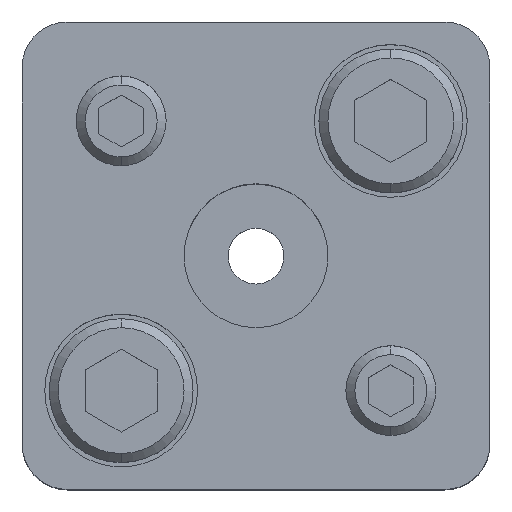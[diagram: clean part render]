
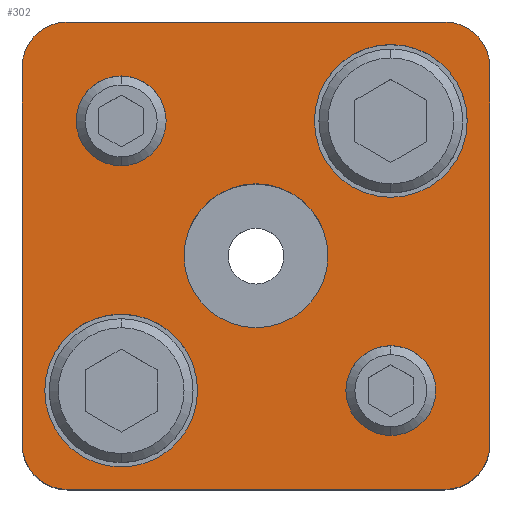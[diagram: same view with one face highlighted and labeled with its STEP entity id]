
A CAD part, top view. The second image highlights one B-rep face of the part: STEP entity #302.
In plain terms, the highlighted planar face has unit normal (0, 0, 1).
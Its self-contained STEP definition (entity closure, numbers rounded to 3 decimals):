
#165=FACE_BOUND('',#685,.T.);
#166=FACE_BOUND('',#686,.T.);
#167=FACE_BOUND('',#687,.T.);
#168=FACE_BOUND('',#688,.T.);
#169=FACE_BOUND('',#689,.T.);
#170=FACE_BOUND('',#690,.T.);
#211=PLANE('',#2792);
#302=ADVANCED_FACE('',(#165,#166,#167,#168,#169,#170),#211,.T.);
#685=EDGE_LOOP('',(#1147,#1148,#1149,#1150,#1151,#1152,#1153,#1154));
#686=EDGE_LOOP('',(#1155,#1156));
#687=EDGE_LOOP('',(#1157,#1158));
#688=EDGE_LOOP('',(#1159,#1160));
#689=EDGE_LOOP('',(#1161,#1162));
#690=EDGE_LOOP('',(#1163,#1164));
#877=CIRCLE('',#2768,8.5);
#879=CIRCLE('',#2771,8.5);
#881=CIRCLE('',#2775,8.5);
#883=CIRCLE('',#2778,8.5);
#885=CIRCLE('',#2782,5.);
#886=CIRCLE('',#2783,5.);
#887=CIRCLE('',#2784,5.);
#888=CIRCLE('',#2785,5.);
#889=CIRCLE('',#2786,5.);
#890=CIRCLE('',#2787,5.);
#891=CIRCLE('',#2788,5.);
#892=CIRCLE('',#2789,5.);
#893=CIRCLE('',#2790,8.);
#894=CIRCLE('',#2791,8.);
#1147=ORIENTED_EDGE('',*,*,#2031,.T.);
#1148=ORIENTED_EDGE('',*,*,#2032,.T.);
#1149=ORIENTED_EDGE('',*,*,#2033,.T.);
#1150=ORIENTED_EDGE('',*,*,#2034,.T.);
#1151=ORIENTED_EDGE('',*,*,#2035,.T.);
#1152=ORIENTED_EDGE('',*,*,#2036,.T.);
#1153=ORIENTED_EDGE('',*,*,#2037,.T.);
#1154=ORIENTED_EDGE('',*,*,#2038,.T.);
#1155=ORIENTED_EDGE('',*,*,#2039,.F.);
#1156=ORIENTED_EDGE('',*,*,#2040,.F.);
#1157=ORIENTED_EDGE('',*,*,#2041,.F.);
#1158=ORIENTED_EDGE('',*,*,#2042,.F.);
#1159=ORIENTED_EDGE('',*,*,#2029,.F.);
#1160=ORIENTED_EDGE('',*,*,#2025,.F.);
#1161=ORIENTED_EDGE('',*,*,#2023,.F.);
#1162=ORIENTED_EDGE('',*,*,#2019,.F.);
#1163=ORIENTED_EDGE('',*,*,#2043,.T.);
#1164=ORIENTED_EDGE('',*,*,#2044,.T.);
#1767=VERTEX_POINT('',#4005);
#1768=VERTEX_POINT('',#4006);
#1771=VERTEX_POINT('',#4018);
#1772=VERTEX_POINT('',#4019);
#1775=VERTEX_POINT('',#4031);
#1776=VERTEX_POINT('',#4032);
#1777=VERTEX_POINT('',#4034);
#1778=VERTEX_POINT('',#4036);
#1779=VERTEX_POINT('',#4038);
#1780=VERTEX_POINT('',#4040);
#1781=VERTEX_POINT('',#4042);
#1782=VERTEX_POINT('',#4044);
#1783=VERTEX_POINT('',#4047);
#1784=VERTEX_POINT('',#4048);
#1785=VERTEX_POINT('',#4051);
#1786=VERTEX_POINT('',#4052);
#1787=VERTEX_POINT('',#4055);
#1788=VERTEX_POINT('',#4056);
#2019=EDGE_CURVE('',#1767,#1768,#877,.T.);
#2023=EDGE_CURVE('',#1768,#1767,#879,.T.);
#2025=EDGE_CURVE('',#1771,#1772,#881,.T.);
#2029=EDGE_CURVE('',#1772,#1771,#883,.T.);
#2031=EDGE_CURVE('',#1775,#1776,#885,.T.);
#2032=EDGE_CURVE('',#1776,#1777,#2349,.T.);
#2033=EDGE_CURVE('',#1777,#1778,#886,.T.);
#2034=EDGE_CURVE('',#1778,#1779,#2350,.T.);
#2035=EDGE_CURVE('',#1779,#1780,#887,.T.);
#2036=EDGE_CURVE('',#1780,#1781,#2351,.T.);
#2037=EDGE_CURVE('',#1781,#1782,#888,.T.);
#2038=EDGE_CURVE('',#1782,#1775,#2352,.T.);
#2039=EDGE_CURVE('',#1783,#1784,#889,.T.);
#2040=EDGE_CURVE('',#1784,#1783,#890,.T.);
#2041=EDGE_CURVE('',#1785,#1786,#891,.T.);
#2042=EDGE_CURVE('',#1786,#1785,#892,.T.);
#2043=EDGE_CURVE('',#1787,#1788,#893,.T.);
#2044=EDGE_CURVE('',#1788,#1787,#894,.T.);
#2349=LINE('',#4033,#2545);
#2350=LINE('',#4037,#2546);
#2351=LINE('',#4041,#2547);
#2352=LINE('',#4045,#2548);
#2545=VECTOR('',#3215,1.);
#2546=VECTOR('',#3218,1.);
#2547=VECTOR('',#3221,1.);
#2548=VECTOR('',#3224,1.);
#2768=AXIS2_PLACEMENT_3D('',#4004,#3181,#3182);
#2771=AXIS2_PLACEMENT_3D('',#4013,#3189,#3190);
#2775=AXIS2_PLACEMENT_3D('',#4017,#3197,#3198);
#2778=AXIS2_PLACEMENT_3D('',#4026,#3205,#3206);
#2782=AXIS2_PLACEMENT_3D('',#4030,#3213,#3214);
#2783=AXIS2_PLACEMENT_3D('',#4035,#3216,#3217);
#2784=AXIS2_PLACEMENT_3D('',#4039,#3219,#3220);
#2785=AXIS2_PLACEMENT_3D('',#4043,#3222,#3223);
#2786=AXIS2_PLACEMENT_3D('',#4046,#3225,#3226);
#2787=AXIS2_PLACEMENT_3D('',#4049,#3227,#3228);
#2788=AXIS2_PLACEMENT_3D('',#4050,#3229,#3230);
#2789=AXIS2_PLACEMENT_3D('',#4053,#3231,#3232);
#2790=AXIS2_PLACEMENT_3D('',#4054,#3233,#3234);
#2791=AXIS2_PLACEMENT_3D('',#4057,#3235,#3236);
#2792=AXIS2_PLACEMENT_3D('',#4058,#3237,#3238);
#3181=DIRECTION('',(0.,0.,1.));
#3182=DIRECTION('',(-1.,0.,0.));
#3189=DIRECTION('',(0.,0.,1.));
#3190=DIRECTION('',(1.,0.,0.));
#3197=DIRECTION('',(0.,0.,1.));
#3198=DIRECTION('',(-1.,0.,0.));
#3205=DIRECTION('',(0.,0.,1.));
#3206=DIRECTION('',(1.,0.,0.));
#3213=DIRECTION('',(0.,0.,1.));
#3214=DIRECTION('',(-0.707,-0.707,0.));
#3215=DIRECTION('',(-1.,0.,0.));
#3216=DIRECTION('',(0.,0.,1.));
#3217=DIRECTION('',(0.707,-0.707,0.));
#3218=DIRECTION('',(0.,-1.,0.));
#3219=DIRECTION('',(0.,0.,1.));
#3220=DIRECTION('',(0.707,0.707,0.));
#3221=DIRECTION('',(1.,0.,0.));
#3222=DIRECTION('',(0.,0.,1.));
#3223=DIRECTION('',(-0.707,0.707,0.));
#3224=DIRECTION('',(0.,1.,0.));
#3225=DIRECTION('',(0.,0.,1.));
#3226=DIRECTION('',(1.,0.,0.));
#3227=DIRECTION('',(0.,0.,1.));
#3228=DIRECTION('',(-1.,0.,0.));
#3229=DIRECTION('',(0.,0.,1.));
#3230=DIRECTION('',(1.,0.,0.));
#3231=DIRECTION('',(0.,0.,1.));
#3232=DIRECTION('',(-1.,0.,0.));
#3233=DIRECTION('',(0.,0.,-1.));
#3234=DIRECTION('',(-1.,0.,0.));
#3235=DIRECTION('',(0.,0.,-1.));
#3236=DIRECTION('',(1.,0.,0.));
#3237=DIRECTION('',(0.,0.,1.));
#3238=DIRECTION('',(0.,-1.,0.));
#4004=CARTESIAN_POINT('',(15.,15.,35.));
#4005=CARTESIAN_POINT('',(15.,6.5,35.));
#4006=CARTESIAN_POINT('',(15.,23.5,35.));
#4013=CARTESIAN_POINT('',(15.,15.,35.));
#4017=CARTESIAN_POINT('',(-15.,-15.,35.));
#4018=CARTESIAN_POINT('',(-15.,-23.5,35.));
#4019=CARTESIAN_POINT('',(-15.,-6.5,35.));
#4026=CARTESIAN_POINT('',(-15.,-15.,35.));
#4030=CARTESIAN_POINT('',(21.,21.,35.));
#4031=CARTESIAN_POINT('',(26.,21.,35.));
#4032=CARTESIAN_POINT('',(21.,26.,35.));
#4033=CARTESIAN_POINT('',(21.,26.,35.));
#4034=CARTESIAN_POINT('',(-21.,26.,35.));
#4035=CARTESIAN_POINT('',(-21.,21.,35.));
#4036=CARTESIAN_POINT('',(-26.,21.,35.));
#4037=CARTESIAN_POINT('',(-26.,21.,35.));
#4038=CARTESIAN_POINT('',(-26.,-21.,35.));
#4039=CARTESIAN_POINT('',(-21.,-21.,35.));
#4040=CARTESIAN_POINT('',(-21.,-26.,35.));
#4041=CARTESIAN_POINT('',(21.,-26.,35.));
#4042=CARTESIAN_POINT('',(21.,-26.,35.));
#4043=CARTESIAN_POINT('',(21.,-21.,35.));
#4044=CARTESIAN_POINT('',(26.,-21.,35.));
#4045=CARTESIAN_POINT('',(26.,21.,35.));
#4046=CARTESIAN_POINT('',(-15.,15.,35.));
#4047=CARTESIAN_POINT('',(-15.,20.,35.));
#4048=CARTESIAN_POINT('',(-15.,10.,35.));
#4049=CARTESIAN_POINT('',(-15.,15.,35.));
#4050=CARTESIAN_POINT('',(15.,-15.,35.));
#4051=CARTESIAN_POINT('',(15.,-10.,35.));
#4052=CARTESIAN_POINT('',(15.,-20.,35.));
#4053=CARTESIAN_POINT('',(15.,-15.,35.));
#4054=CARTESIAN_POINT('',(0.,0.,35.));
#4055=CARTESIAN_POINT('',(0.,8.,35.));
#4056=CARTESIAN_POINT('',(0.,-8.,35.));
#4057=CARTESIAN_POINT('',(0.,0.,35.));
#4058=CARTESIAN_POINT('',(26.,21.,35.));
